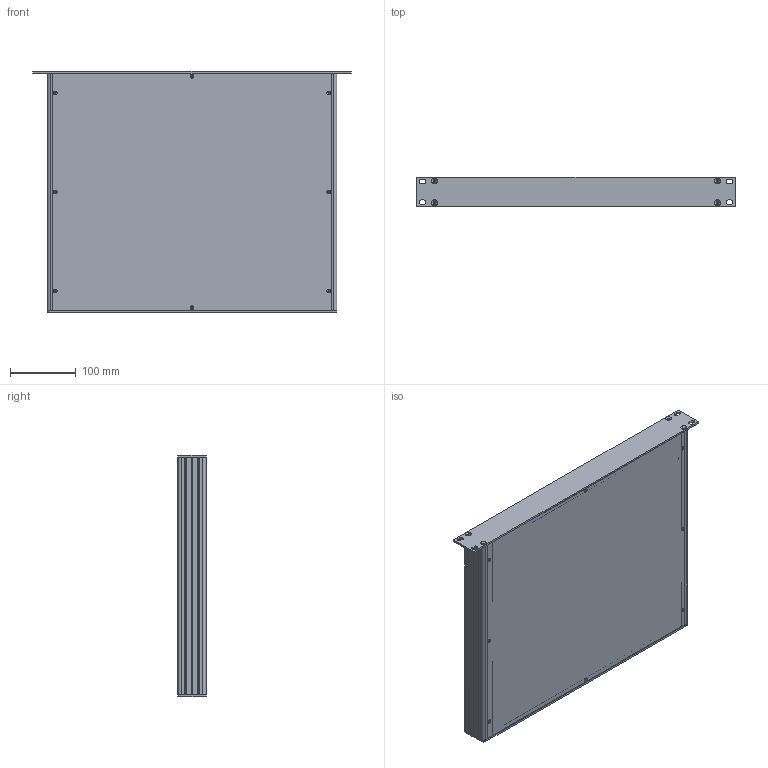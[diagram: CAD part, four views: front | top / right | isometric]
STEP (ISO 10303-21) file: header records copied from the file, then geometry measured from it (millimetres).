
FILE_DESCRIPTION (( 'STEP AP203' ), '1' );
FILE_NAME ('RM-110-36.STEP', '2025-01-27T06:48:52', ( '' ), ( '' ), 'SwSTEP 2.0', 'SolidWorks 2021', '' );
FILE_SCHEMA (( 'CONFIG_CONTROL_DESIGN' ));
Length unit declared in the file: millimetre
Products named in the file (6): 1U_arka_panel; Panel_1; Panel_14 cm; RM-110-36; AP-210_14 cm; 1U_on_panel
Assembly tree (6 placements, depth 2):
  RM-110-36
    1U_on_panel
    AP-210_14 cm  x2
    1U_arka_panel
    Panel_14 cm
    Panel_1
Bounding box: 482.6 x 43.65 x 366 mm (x, y, z)
Volume: 768917 mm3; surface area: 929516.9 mm2
Topology: 6 solids, 6 shells, 1158 faces, 3406 edges, 2260 vertices
Faces by surface type: plane 706, cylinder 404, cone 48
Entity records: 30289 total; most frequent: CARTESIAN_POINT 5185, ORIENTED_EDGE 5126, DIRECTION 5115, EDGE_CURVE 2563, LINE 1763, VECTOR 1763, VERTEX_POINT 1698, AXIS2_PLACEMENT_3D 1676
